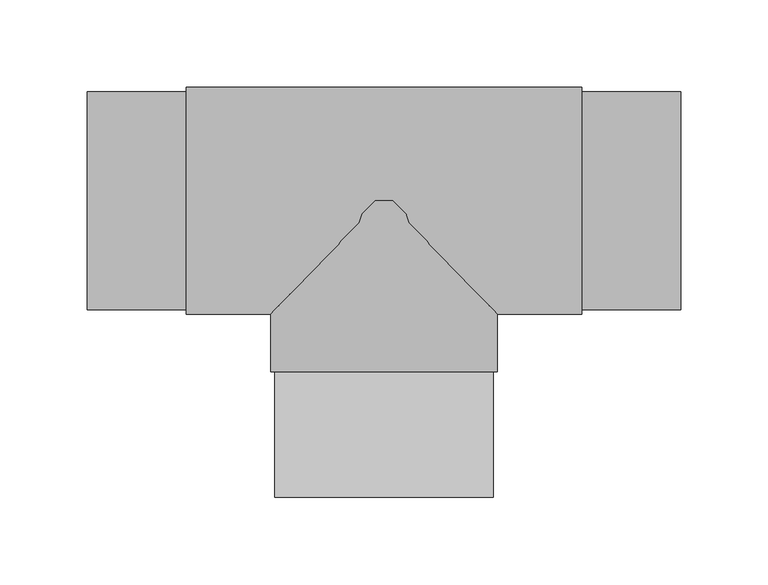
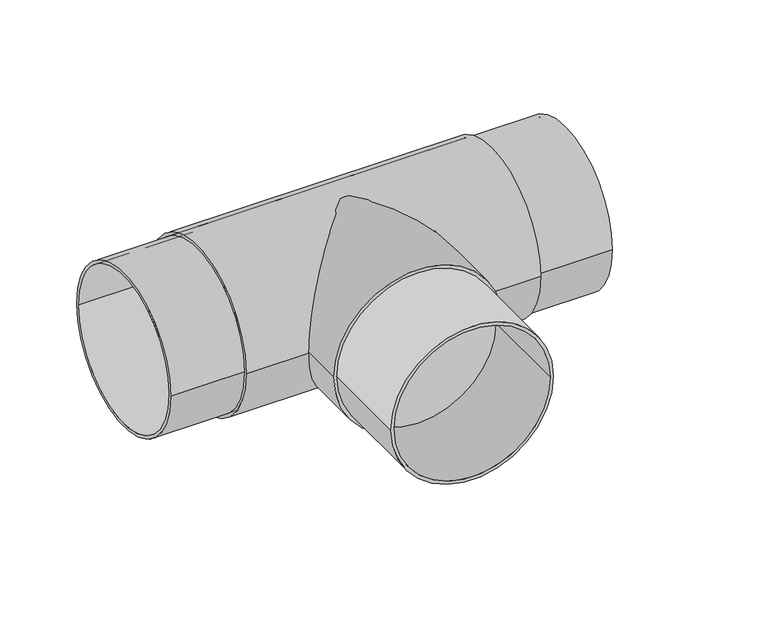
"""IFC4 building model written with IfcOpenShell, lengths in millimetres: pipe fitting geometry, EGB_VASEN_ PPR_Te a tope WXRB300_Te reducida a tope WXRB310 : Te a tope."""

from ifc_helpers import new_model, si_unit, point, frame, origin, origin_2d, place, context, project, spatial, circle_curve, trimmed, segment, composite_curve, outline, extrude, source, transform, mapped, element, save


def pipe_fitting_c06e61ab(model_context):
    return source(origin(), model_context, "Body", "SweptSolid", [
        extrude(outline(composite_curve([segment(trimmed(circle_curve(origin_2d(), 62.5), [point((0.0, 62.5))], [point((0.0, -62.5))], False, "CARTESIAN"), True, "CONTINUOUS"), segment(trimmed(circle_curve(origin_2d(), 62.5), [point((0.0, -62.5))], [point((0.0, 62.5))], False, "CARTESIAN"), True, "CONTINUOUS")], self_intersect=False), holes=[composite_curve([segment(trimmed(circle_curve(origin_2d(), 60.0), [point((0.0, 60.0))], [point((0.0, -60.0))], True, "CARTESIAN"), True, "CONTINUOUS"), segment(trimmed(circle_curve(origin_2d(), 60.0), [point((0.0, -60.0))], [point((0.0, 60.0))], True, "CARTESIAN"), True, "CONTINUOUS")], self_intersect=False)]), frame((0.0, -170.0, 0.0), z_axis=(0.0, 1.0, 0.0), x_axis=(0.0, 0.0, 1.0)), (0.0, 0.0, 1.0), 72.0),
        extrude(outline(composite_curve([segment(trimmed(circle_curve(origin_2d(), 65.0), [point((0.0, 65.0))], [point((0.0, -65.0))], False, "CARTESIAN"), True, "CONTINUOUS"), segment(trimmed(circle_curve(origin_2d(), 65.0), [point((0.0, -65.0))], [point((0.0, 65.0))], False, "CARTESIAN"), True, "CONTINUOUS")], self_intersect=False)), frame((0.0, -98.0, 0.0), z_axis=(0.0, 1.0, 0.0), x_axis=(0.0, 0.0, 1.0)), (0.0, 0.0, 1.0), 98.0),
        extrude(outline(composite_curve([segment(trimmed(circle_curve(origin_2d(), 65.0), [point((-65.0, 0.0))], [point((65.0, 0.0))], False, "CARTESIAN"), True, "CONTINUOUS"), segment(trimmed(circle_curve(origin_2d(), 65.0), [point((65.0, 0.0))], [point((-65.0, 0.0))], False, "CARTESIAN"), True, "CONTINUOUS")], self_intersect=False), holes=[composite_curve([segment(trimmed(circle_curve(origin_2d(), 62.5), [point((-62.5, 0.0))], [point((62.5, 0.0))], True, "CARTESIAN"), True, "CONTINUOUS"), segment(trimmed(circle_curve(origin_2d(), 62.5), [point((62.5, 0.0))], [point((-62.5, 0.0))], True, "CARTESIAN"), True, "CONTINUOUS")], self_intersect=False)]), frame((-113.3333333, 0.0, 0.0), z_axis=(1.0, 0.0, 0.0), x_axis=(0.0, 1.0, 0.0)), (0.0, 0.0, 1.0), 226.6666667),
        extrude(outline(composite_curve([segment(trimmed(circle_curve(origin_2d(), 62.5), [point((-62.5, 0.0))], [point((62.5, 0.0))], False, "CARTESIAN"), True, "CONTINUOUS"), segment(trimmed(circle_curve(origin_2d(), 62.5), [point((62.5, 0.0))], [point((-62.5, 0.0))], False, "CARTESIAN"), True, "CONTINUOUS")], self_intersect=False), holes=[composite_curve([segment(trimmed(circle_curve(origin_2d(), 60.0), [point((-60.0, 0.0))], [point((60.0, 0.0))], True, "CARTESIAN"), True, "CONTINUOUS"), segment(trimmed(circle_curve(origin_2d(), 60.0), [point((60.0, 0.0))], [point((-60.0, 0.0))], True, "CARTESIAN"), True, "CONTINUOUS")], self_intersect=False)]), frame((-170.0, 0.0, 0.0), z_axis=(1.0, 0.0, 0.0), x_axis=(0.0, 1.0, 0.0)), (0.0, 0.0, 1.0), 340.0),
    ])


if __name__ == "__main__":
    model = new_model("IFC4")
    model_context = context("Model", 3, world=origin())
    ifc_project = project(units=[si_unit("LENGTHUNIT", "METRE", prefix="MILLI")], contexts=[model_context])
    site = spatial("IfcSite", under=ifc_project)
    building = spatial("IfcBuilding", under=site)
    placement = place(None, origin())
    pipe_fitting_shape = pipe_fitting_c06e61ab(model_context)
    element("IfcPipeFitting", 1, ObjectType="EGB_VASEN_ PPR_Te a tope WXRB300_Te reducida a tope WXRB310 : Te a tope", at=placement, inside=building, context=model_context, shape_type="MappedRepresentation", body=[
        mapped(pipe_fitting_shape, transform((0.0, 0.0, 0.0), x_axis=(1.0, 0.0, 0.0), y_axis=(0.0, 1.0, 0.0), z_axis=(0.0, 0.0, 1.0))),
    ])
    save(model, "model.ifc")
